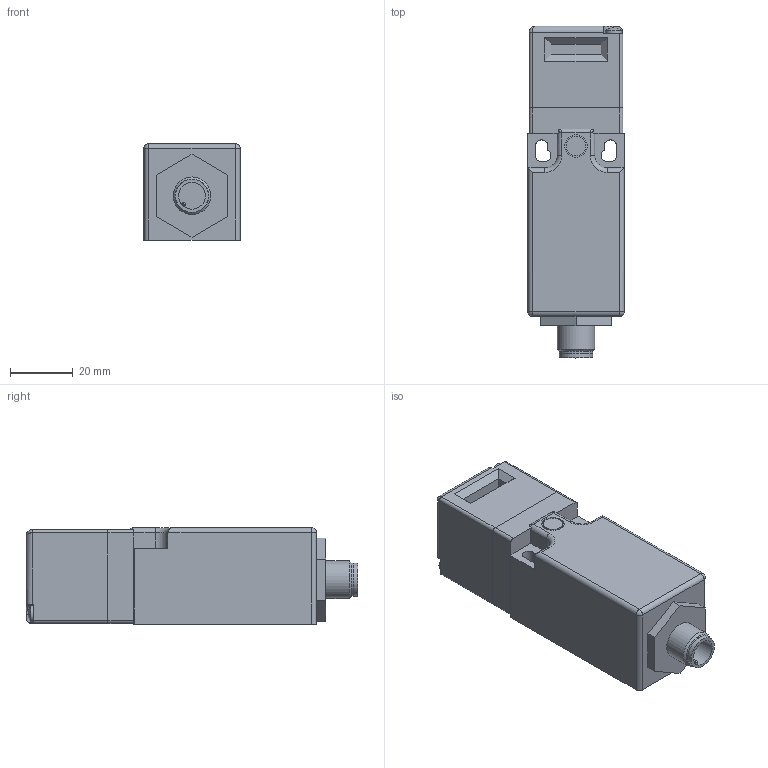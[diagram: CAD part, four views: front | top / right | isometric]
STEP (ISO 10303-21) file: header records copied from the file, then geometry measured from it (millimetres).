
FILE_DESCRIPTION((''),'2;1');
FILE_NAME('M:\INVENTORjob\Konstruktion\Sicherheitsschalter\ipt iam Modelle\April 2012\S20-P4C1-M12-FH\S20-P4C1-M12-FH.stp','2012-04-16T10:05:35',('sloesch'),(''),'Autodesk Inventor 2009','Autodesk Inventor 2009','');
FILE_SCHEMA(('AUTOMOTIVE_DESIGN { 1 0 10303 214 1 1 1 1 }'));
Length unit declared in the file: millimetre
Products named in the file (4): S20-P4C1-M12-FH_; 16; ZF_STEP_VF_TE93_A10; 16_1
Assembly tree (3 placements, depth 3):
  S20-P4C1-M12-FH_
    16
    ZF_STEP_VF_TE93_A10
      16_1
Bounding box: 30.8 x 106.2 x 30.8 mm (x, y, z)
Volume: 82782.7 mm3; surface area: 19372 mm2
Topology: 2 solids, 2 shells, 133 faces, 339 edges, 210 vertices
Faces by surface type: plane 77, cylinder 44, sphere 5, bspline 4, torus 2, cone 1
Full cylindrical faces by diameter (mm): 5.3 x2, 6.2 x1, 7.2 x1, 8.6 x1, 10.6 x1, 10.7 x1, 12 x1
Entity records: 4163 total; most frequent: CARTESIAN_POINT 914, DIRECTION 663, ORIENTED_EDGE 636, EDGE_CURVE 318, AXIS2_PLACEMENT_3D 221, VECTOR 221, LINE 221, VERTEX_POINT 206
